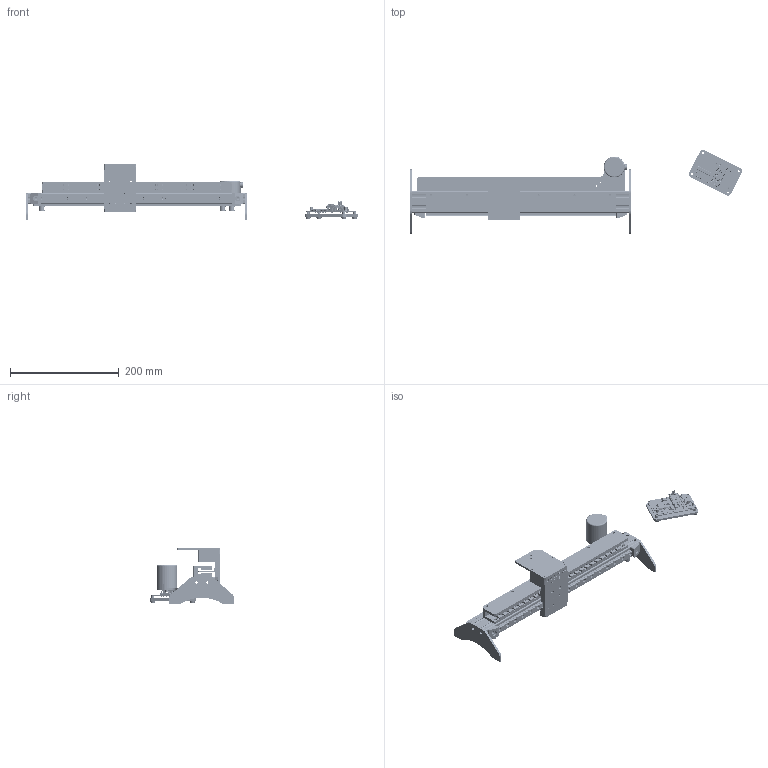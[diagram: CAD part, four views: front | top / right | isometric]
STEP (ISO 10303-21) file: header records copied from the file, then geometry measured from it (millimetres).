
FILE_DESCRIPTION(/* description */ (''),/* implementation_level */ '2;1');
FILE_NAME(/* name */ 'C:/#Projekte/Linear-Motor/STEP/Linearmotor_Ironless v40.step',/* time_stamp */ '2019-01-19T09:46:32+01:00',/* author */ ('Vulcaman'),/* organization */ (''),/* preprocessor_version */ 'ST-DEVELOPER v17.2',/* originating_system */ 'Autodesk Translation Framework v7.6.0.251',/* authorisation */ '');
FILE_SCHEMA (('AUTOMOTIVE_DESIGN { 1 0 10303 214 3 1 1 }'));
Products named in the file (72): Linearmotor_Ironless; Unterer Magnethalter; Unterer Magnethalter (1); Abstandshalter Magnethalter; Magneten  10x20x3mm; P20x40_N5_I v1; MGN9; MGN9-H; Aktor_2; Aktor_2_Spulenaufnahme; Kabelbox_Aktor; Druckteil_Kabelbox; Komponente23; Komponente24; Encoder-Baugruppe; Schrauben; M3 Unterlegscheibe; Lager; F623ZZ; Komponente25; Achs-Begrenzung; Stand-Füße; Encoder; Plastik-Gehäuse; Alu-Lagersitz; Schaft; Abstandshalter_Encoder; Riemenhalterung; PCB-Halterung; PCB_V3; Board; NANO; nano-board; 2pin_header__02; 15pin_header__; atmega328; ftdi FT232rl; smt_resistor222; led; 16mhz crystal - measured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
Assembly tree (170 placements, depth 6):
  Linearmotor_Ironless
    Unterer Magnethalter
    Unterer Magnethalter (1)
    Abstandshalter Magnethalter
    Magneten  10x20x3mm
      Magnet  x24
    P20x40_N5_I v1
    MGN9
    MGN9-H
    Aktor_2
    Aktor_2_Spulenaufnahme
    Kabelbox_Aktor
      Druckteil_Kabelbox
      Komponente23
      Komponente24
    Encoder-Baugruppe
      Schrauben
        M3 Unterlegscheibe  x3
      Lager
        F623ZZ  x6
      Komponente25
    Achs-Begrenzung  x2
    Stand-Füße  x2
    Encoder
      Plastik-Gehäuse
      Alu-Lagersitz
      Schaft
    Abstandshalter_Encoder
    Riemenhalterung
    PCB-Halterung
      PCB_V3
        Board
        NANO
          nano-board
          2pin_header__02  x3
          15pin_header__  x2
          atmega328
          ftdi FT232rl
          smt_resistor222  x5
          led  x4
          16mhz crystal - measured
          MINIUSB - MEASURED
            MINIUSBSHELL
            MINIUSBCORE
            MINI USB CONTACT  x5
          cap106C  x2
          reset button
            reset core
            reset shell
          nano - reg
          NANO DIODE
          189 RESISTOR PACK
          102 RESISTOR PACK
        1µF  x2
        1X05
        L6234
          DIP14_body
            Komponente4
          legs  x10
        1N4148  x2
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Bounding box: 611.67 x 156.05 x 104 mm (x, y, z)
Volume: 604656 mm3; surface area: 435205.7 mm2
Topology: 326 solids, 326 shells, 9611 faces, 24786 edges, 16100 vertices
Faces by surface type: plane 5594, cylinder 2572, bspline 750, torus 464, sphere 145, cone 86
Full cylindrical faces by diameter (mm): 0.45 x4, 0.5 x4, 0.55 x8, 0.8 x34, 0.813 x54, 0.9 x30, 1 x6, 1.016 x15, 1.02 x1, 1.118 x3, 1.2 x1, 1.288 x5, 1.3 x5, 1.75 x2, 1.78 x2, 1.8 x5, 2 x1, 2.5 x24, 2.603 x4, 2.9 x2, 3 x10, 3.2 x3, 3.3 x16, 3.302 x1, 3.4 x2, 3.5 x34, 3.6 x4, 4 x18, 4.3 x2, 4.5 x6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
Entity records: 232844 total; most frequent: CARTESIAN_POINT 60050, ORIENTED_EDGE 35148, DIRECTION 33857, EDGE_CURVE 17574, VERTEX_POINT 11449, LINE 11295, VECTOR 11295, AXIS2_PLACEMENT_3D 11281
